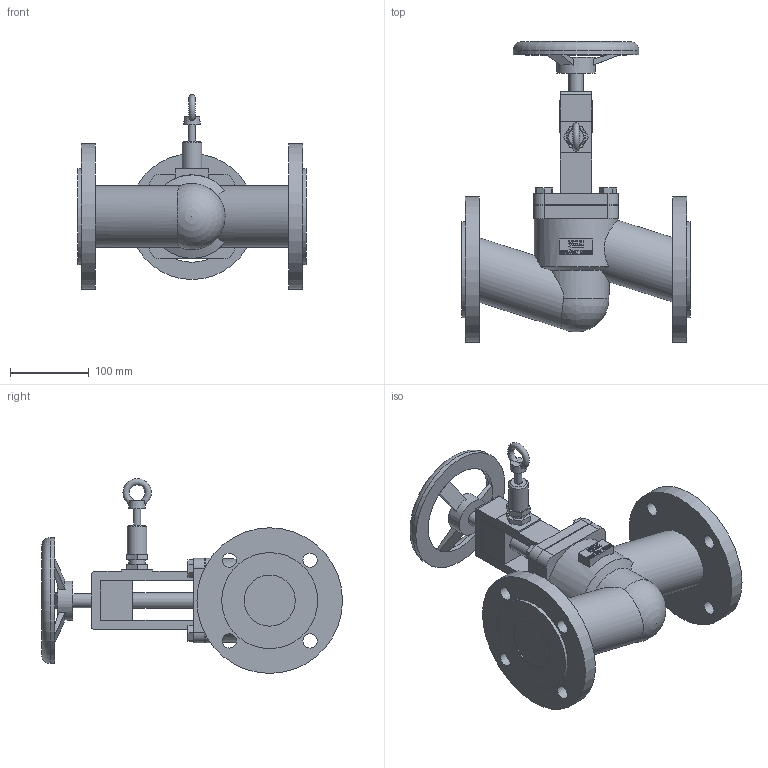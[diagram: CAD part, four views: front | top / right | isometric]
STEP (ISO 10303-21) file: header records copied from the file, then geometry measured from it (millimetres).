
FILE_DESCRIPTION(/* description */ (''),/* implementation_level */ '2;1');
FILE_NAME(/* name */ '100-247M-DN65-PN16.stp',/* time_stamp */ '2024-07-09T08:10:55+02:00',/* author */ ('roger.thijssen'),/* organization */ (''),/* preprocessor_version */ 'ST-DEVELOPER v20',/* originating_system */ 'Autodesk Inventor 2024',/* authorisation */ '');
FILE_SCHEMA (('AUTOMOTIVE_DESIGN { 1 0 10303 214 3 1 1 }'));
Length unit declared in the file: millimetre
Products named in the file (1): 100-247M-DN65-PN16
Bounding box: 290 x 382.5 x 247.5 mm (x, y, z)
Volume: 3630522.1 mm3; surface area: 329147.7 mm2
Topology: 1 solids, 1 shells, 372 faces, 980 edges, 651 vertices
Faces by surface type: plane 240, bspline 75, cylinder 50, cone 4, torus 2, sphere 1
Full cylindrical faces by diameter (mm): 9 x1, 18 x9, 20 x1, 21 x1, 25 x1, 49.55 x1, 65 x2, 78 x2, 95 x1, 106 x1, 116 x1, 122 x2, 160 x1, 185 x2
Entity records: 12766 total; most frequent: CARTESIAN_POINT 3453, ORIENTED_EDGE 1958, DIRECTION 1532, EDGE_CURVE 979, LINE 680, VECTOR 680, VERTEX_POINT 651, EDGE_LOOP 442
